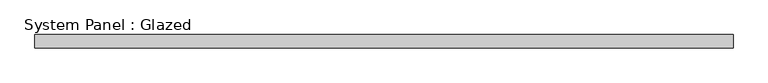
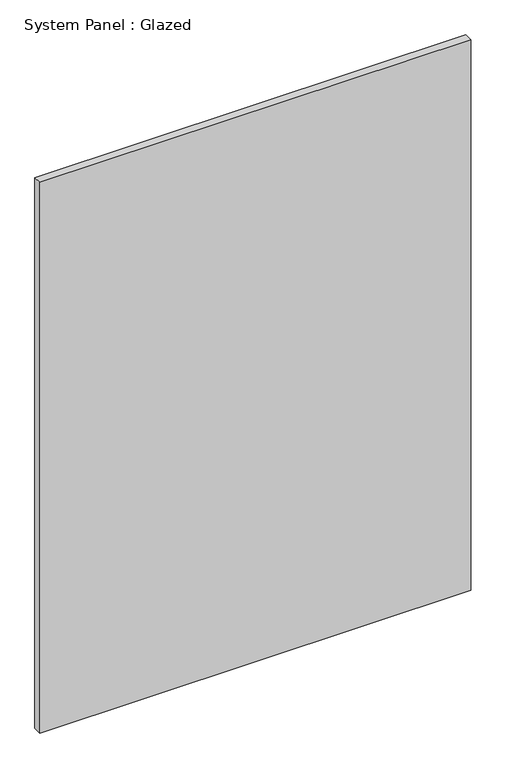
"""IFC4 building model written with IfcOpenShell, lengths in millimetres: plate geometry, System Panel : Glazed."""

from ifc_helpers import new_model, si_unit, origin, origin_with_axes, place, context, project, spatial, polyline, outline, extrude, source, transform, mapped, element, save


def system_panel_glazed_cc2dea4c(model_context):
    return source(origin(), model_context, "Body", "SweptSolid", [
        extrude(outline(polyline([(660.4, -12.7), (-660.4, -12.7), (-660.4, 12.7), (660.4, 12.7), (660.4, -12.7)])), origin_with_axes(), (0.0, 0.0, 1.0), 1784.35),
    ])


if __name__ == "__main__":
    model = new_model("IFC4")
    model_context = context("Model", 3, world=origin())
    ifc_project = project(units=[si_unit("LENGTHUNIT", "METRE", prefix="MILLI")], contexts=[model_context])
    site = spatial("IfcSite", under=ifc_project)
    building = spatial("IfcBuilding", under=site)
    placement = place(None, origin())
    system_panel_glazed_shape = system_panel_glazed_cc2dea4c(model_context)
    element("IfcPlate", 1, ObjectType="System Panel : Glazed", at=placement, inside=building, context=model_context, shape_type="MappedRepresentation", body=[
        mapped(system_panel_glazed_shape, transform((0.0, 0.0, 0.0), x_axis=(1.0, 0.0, 0.0), y_axis=(0.0, 1.0, 0.0), z_axis=(0.0, 0.0, 1.0))),
    ])
    save(model, "model.ifc")
